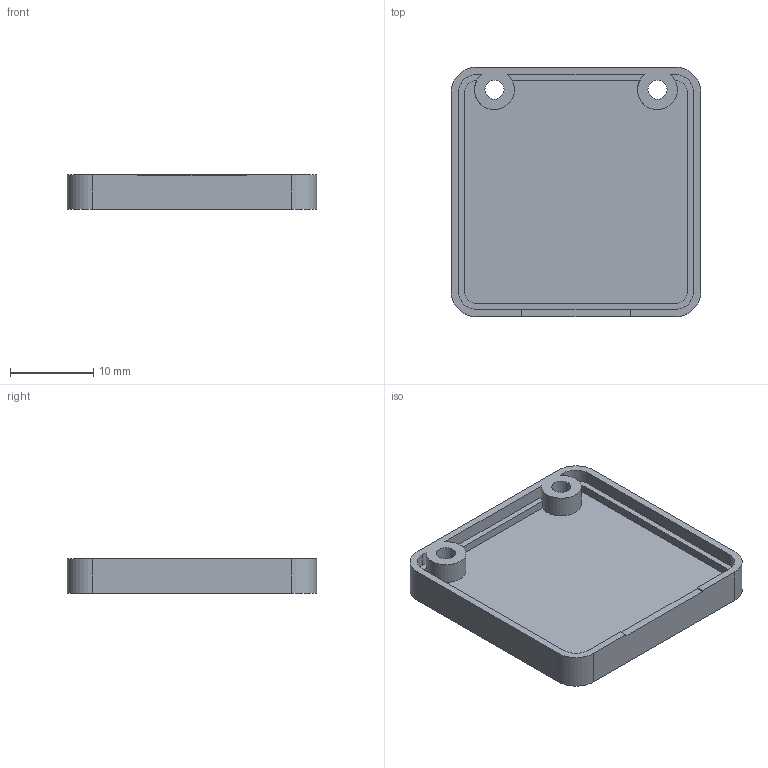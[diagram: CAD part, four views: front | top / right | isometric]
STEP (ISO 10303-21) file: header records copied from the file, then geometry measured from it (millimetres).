
FILE_DESCRIPTION(('FreeCAD Model'),'2;1');
FILE_NAME('Open CASCADE Shape Model','2026-09-05T19:19:36',('FreeCAD'),( 'FreeCAD'),'Open CASCADE STEP processor 7.8','FreeCAD','Unknown');
FILE_SCHEMA(('AUTOMOTIVE_DESIGN { 1 0 10303 214 1 1 1 1 }'));
Length unit declared in the file: millimetre
Products named in the file (1): Open CASCADE STEP translator 7.8 1
Bounding box: 30 x 30 x 4.2 mm (x, y, z)
Volume: 1801.7 mm3; surface area: 2619.3 mm2
Topology: 1 solids, 1 shells, 42 faces, 122 edges, 82 vertices
Faces by surface type: plane 24, cylinder 16, cone 2
Full cylindrical faces by diameter (mm): 2.3 x2
Entity records: 1422 total; most frequent: DIRECTION 250, CARTESIAN_POINT 247, ORIENTED_EDGE 244, EDGE_CURVE 122, AXIS2_PLACEMENT_3D 85, VERTEX_POINT 82, LINE 80, VECTOR 80
